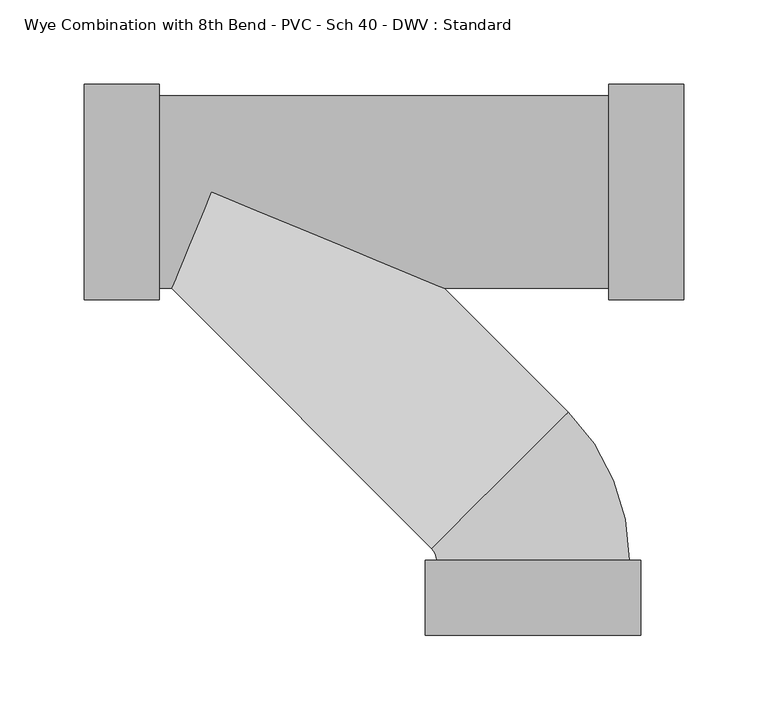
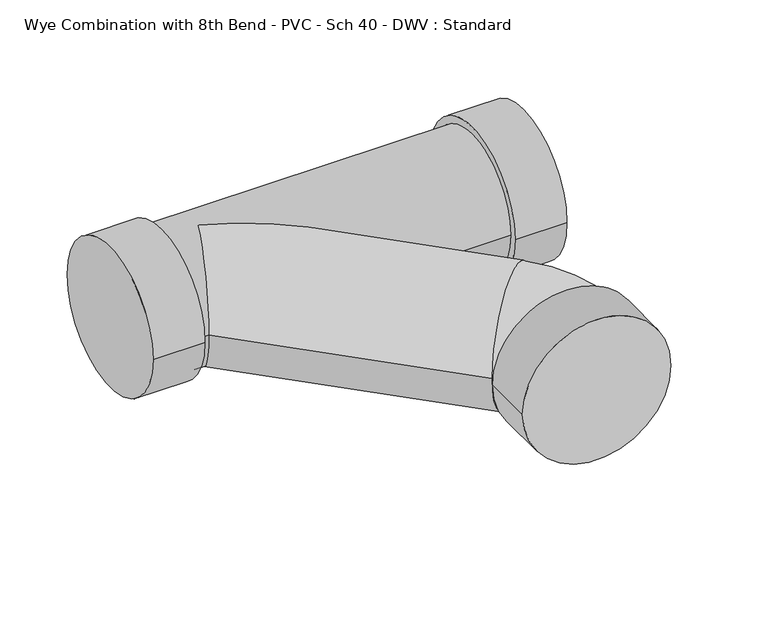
"""IFC4 building model written with IfcOpenShell, lengths in millimetres: pipe fitting geometry, Wye Combination with 8th Bend - PVC - Sch 40 - DWV : Standard."""

from ifc_helpers import new_model, si_unit, point, frame, origin, place, context, project, spatial, circle_curve, ellipse_curve, trimmed, source, transform, mapped, element, save
from ifc_brep_helpers import plane_surface, cylinder_surface, revolved_surface, advanced_brep


def wye_combination_with_8th_bend_pvc_sch_40_dwv_standard_4b4f6425(model_context):
    return source(origin(), model_context, "Body", "AdvancedBrep", [
        advanced_brep(
        [(-265.8880695, -63.754, 0.0), (-265.8880695, 63.754, 0.0), (-221.4380695, -63.754, 0.0), (-221.4380695, 63.754, 0.0), (-221.4380695, -57.15, 0.0), (-221.4380695, 57.15, 0.0), (44.8555305, 57.15, 0.0), (-214.219996, -57.15, 0.0), (-190.5476909, 0.0, 57.15), (-52.5753858, -57.15, 0.0), (44.8555305, -57.15, 0.0), (-190.5476909, 0.0, -57.15), (44.8555305, -63.754, 0.0), (44.8555305, 63.754, 0.0), (89.3055305, -63.754, 0.0), (89.3055305, 63.754, 0.0), (-59.9896719, -211.3803241, 0.0), (-57.1254692, -218.2940223, 0.0), (57.1745301, -218.2811777, 0.0), (20.8326332, -130.558019, 0.0), (-63.7294691, -218.2947645, 0.0), (63.7785301, -218.2804355, 0.0), (-63.724474, -262.7447642, 0.0), (63.7835252, -262.7304352, 0.0)],
        [
            (0, 1, circle_curve(frame((-265.8880695, 0.0, 0.0), z_axis=(-1.0, 0.0, 0.0), x_axis=(0.0, 1.0, 0.0)), 63.754)),
            (1, 0, circle_curve(frame((-265.8880695, 0.0, 0.0), z_axis=(-1.0, 0.0, 0.0), x_axis=(0.0, 1.0, 0.0)), 63.754)),
            (2, 3, circle_curve(frame((-221.4380695, 0.0, 0.0), z_axis=(1.0, 0.0, 0.0), x_axis=(0.0, 1.0, 0.0)), 63.754)),
            (3, 2, circle_curve(frame((-221.4380695, 0.0, 0.0), z_axis=(1.0, 0.0, 0.0), x_axis=(0.0, 1.0, 0.0)), 63.754)),
            (4, 5, circle_curve(frame((-221.4380695, 0.0, 0.0), z_axis=(-1.0, 0.0, 0.0), x_axis=(0.0, 1.0, 0.0)), 57.15)),
            (5, 4, circle_curve(frame((-221.4380695, 0.0, 0.0), z_axis=(-1.0, 0.0, 0.0), x_axis=(0.0, 1.0, 0.0)), 57.15)),
            (0, 2),
            (3, 1),
            (6, 5),
            (4, 7),
            (7, 8, ellipse_curve(frame((-190.5476909, 0.0, 0.0), z_axis=(-0.9238795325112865, 0.38268343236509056, 0.0), x_axis=(-0.3826834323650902, -0.9238795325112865, 0.0)), 61.8587142, 57.15)),
            (8, 9, ellipse_curve(frame((-190.5476909, 0.0, 0.0), z_axis=(0.38268343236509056, 0.9238795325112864, 0.0), x_axis=(-0.9238795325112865, 0.38268343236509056, 0.0)), 149.3401469, 57.15)),
            (9, 10),
            (10, 6, circle_curve(frame((44.8555305, 0.0, 0.0), z_axis=(-1.0, 0.0, 0.0), x_axis=(0.0, 1.0, 0.0)), 57.15)),
            (6, 10, circle_curve(frame((44.8555305, 0.0, 0.0), z_axis=(-1.0, 0.0, 0.0), x_axis=(0.0, 1.0, 0.0)), 57.15)),
            (9, 11, ellipse_curve(frame((-190.5476909, 0.0, 0.0), z_axis=(0.38268343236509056, 0.9238795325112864, 0.0), x_axis=(-0.9238795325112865, 0.38268343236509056, 0.0)), 149.3401469, 57.15)),
            (11, 7, ellipse_curve(frame((-190.5476909, 0.0, 0.0), z_axis=(-0.9238795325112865, 0.38268343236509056, 0.0), x_axis=(-0.3826834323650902, -0.9238795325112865, 0.0)), 61.8587142, 57.15)),
            (12, 13, circle_curve(frame((44.8555305, 0.0, 0.0), z_axis=(-1.0, 0.0, 0.0), x_axis=(0.0, 1.0, 0.0)), 63.754)),
            (13, 12, circle_curve(frame((44.8555305, 0.0, 0.0), z_axis=(-1.0, 0.0, 0.0), x_axis=(0.0, 1.0, 0.0)), 63.754)),
            (14, 15, circle_curve(frame((89.3055305, 0.0, 0.0), z_axis=(1.0, 0.0, 0.0), x_axis=(0.0, 1.0, 0.0)), 63.754)),
            (15, 14, circle_curve(frame((89.3055305, 0.0, 0.0), z_axis=(1.0, 0.0, 0.0), x_axis=(0.0, 1.0, 0.0)), 63.754)),
            (12, 14),
            (15, 13),
            (16, 17, circle_curve(frame((-66.9044691, -218.2951213, 0.0), z_axis=(0.0, 0.0, -1.0), x_axis=(0.9999999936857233, 0.00011237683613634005, 0.0)), 9.779)),
            (17, 18, circle_curve(frame((0.0245305, -218.2876, 0.0), z_axis=(-0.00011237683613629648, 0.9999999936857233, 0.0), x_axis=(-0.9999999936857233, -0.00011237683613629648, 0.0)), 57.15)),
            (18, 19, circle_curve(frame((-66.9044691, -218.2951213, 0.0), z_axis=(0.0, 0.0, 1.0), x_axis=(0.9999999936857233, 0.00011237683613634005, 0.0)), 124.079)),
            (19, 16, circle_curve(frame((-19.5785193, -170.9691715, 0.0), z_axis=(0.707106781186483, -0.7071067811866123, 0.0), x_axis=(-0.7071067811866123, -0.707106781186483, 0.0)), 57.15)),
            (16, 19, circle_curve(frame((-19.5785193, -170.9691715, 0.0), z_axis=(0.7071067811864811, -0.7071067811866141, 0.0), x_axis=(-0.7071067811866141, -0.7071067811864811, 0.0)), 57.15)),
            (18, 17, circle_curve(frame((0.0245305, -218.2876, 0.0), z_axis=(-0.00011237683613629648, 0.9999999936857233, 0.0), x_axis=(-0.9999999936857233, -0.00011237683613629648, 0.0)), 57.15)),
            (19, 9),
            (7, 16),
            (20, 21, circle_curve(frame((0.0245305, -218.2876, 0.0), z_axis=(-0.00011237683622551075, 0.9999999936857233, 0.0), x_axis=(0.9999999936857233, 0.00011237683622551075, 0.0)), 63.754)),
            (21, 20, circle_curve(frame((0.0245305, -218.2876, 0.0), z_axis=(-0.00011237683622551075, 0.9999999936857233, 0.0), x_axis=(0.9999999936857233, 0.00011237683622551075, 0.0)), 63.754)),
            (22, 23, circle_curve(frame((0.0295256, -262.7375997, 0.0), z_axis=(0.00011237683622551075, -0.9999999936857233, 0.0), x_axis=(0.9999999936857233, 0.00011237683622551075, 0.0)), 63.754)),
            (23, 22, circle_curve(frame((0.0295256, -262.7375997, 0.0), z_axis=(0.00011237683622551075, -0.9999999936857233, 0.0), x_axis=(0.9999999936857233, 0.00011237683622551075, 0.0)), 63.754)),
            (20, 22),
            (23, 21),
        ],
        [
            plane_surface(frame((-265.8880695, 0.0, 0.0), z_axis=(-1.0, 0.0, 0.0), x_axis=(0.0, 0.0, 1.0))),
            plane_surface(frame((-221.4380695, 0.0, 0.0), z_axis=(1.0, 0.0, 0.0), x_axis=(0.0, 0.0, 1.0))),
            cylinder_surface(frame((-265.8880695, 0.0, 0.0), z_axis=(-1.0, 0.0, 0.0), x_axis=(0.0, 1.0, 0.0)), 63.754),
            cylinder_surface(frame((-221.4380695, 0.0, 0.0), z_axis=(-1.0, 0.0, 0.0), x_axis=(0.0, 1.0, 0.0)), 57.15),
            plane_surface(frame((44.8555305, 0.0, 0.0), z_axis=(-1.0, 0.0, 0.0), x_axis=(0.0, 0.0, 1.0))),
            plane_surface(frame((89.3055305, 0.0, 0.0), z_axis=(1.0, 0.0, 0.0), x_axis=(0.0, 0.0, 1.0))),
            cylinder_surface(frame((44.8555305, 0.0, 0.0), z_axis=(-1.0, 0.0, 0.0), x_axis=(0.0, 1.0, 0.0)), 63.754),
            revolved_surface(trimmed(ellipse_curve(frame((0.0245305, -218.2876, 0.0), z_axis=(0.00011237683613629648, -0.9999999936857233, 0.0), x_axis=(-0.9999999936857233, -0.00011237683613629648, 0.0)), 57.15, 57.15), [point((57.1745301, -218.2811777, 0.0))], [point((-57.1254692, -218.2940223, 0.0))], True, "CARTESIAN"), (-66.9044691, -218.2951213, 0.0), (0.0, 0.0, 1.0)),
            revolved_surface(trimmed(ellipse_curve(frame((0.0245305, -218.2876, 0.0), z_axis=(0.00011237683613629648, -0.9999999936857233, 0.0), x_axis=(-0.9999999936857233, -0.00011237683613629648, 0.0)), 57.15, 57.15), [point((-57.1254692, -218.2940223, 0.0))], [point((57.1745301, -218.2811777, 0.0))], True, "CARTESIAN"), (-66.9044691, -218.2951213, 0.0), (0.0, 0.0, 1.0)),
            cylinder_surface(frame((-19.5785193, -170.9691715, 0.0), z_axis=(0.7071067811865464, -0.7071067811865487, 0.0), x_axis=(-0.7071067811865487, -0.7071067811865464, 0.0)), 57.15),
            plane_surface(frame((0.0245305, -218.2876, 0.0), z_axis=(-0.00011237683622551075, 0.9999999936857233, 0.0), x_axis=(0.0, 0.0, 1.0))),
            plane_surface(frame((0.0295256, -262.7375997, 0.0), z_axis=(0.00011237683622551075, -0.9999999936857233, 0.0), x_axis=(0.0, 0.0, 1.0))),
            cylinder_surface(frame((0.0245305, -218.2876, 0.0), z_axis=(-0.00011237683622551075, 0.9999999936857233, 0.0), x_axis=(0.9999999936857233, 0.00011237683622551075, 0.0)), 63.754),
        ],
        [
            (0, [[1, 2]]),
            (1, [[3, 4], [5, 6]]),
            (2, [[-1, 7, -4, 8]]),
            (2, [[-2, -8, -3, -7]]),
            (3, [[9, -5, 10, 11, 12, 13, 14]]),
            (3, [[-9, 15, -13, 16, 17, -10, -6]]),
            (4, [[18, 19], [-14, -15]]),
            (5, [[20, 21]]),
            (6, [[-18, 22, -21, 23]]),
            (6, [[-19, -23, -20, -22]]),
            (7, [[24, 25, 26, 27]]),
            (8, [[-24, 28, -26, 29]]),
            (9, [[-27, 30, -12, -11, 31]]),
            (9, [[-28, -31, -17, -16, -30]]),
            (10, [[32, 33], [-25, -29]]),
            (11, [[34, 35]]),
            (12, [[-32, 36, -35, 37]]),
            (12, [[-33, -37, -34, -36]]),
        ],
    ),
    ])


if __name__ == "__main__":
    model = new_model("IFC4")
    model_context = context("Model", 3, world=origin())
    ifc_project = project(units=[si_unit("LENGTHUNIT", "METRE", prefix="MILLI")], contexts=[model_context])
    site = spatial("IfcSite", under=ifc_project)
    building = spatial("IfcBuilding", under=site)
    placement = place(None, origin())
    wye_combination_with_8th_bend_pvc_sch_40_dwv_standard_shape = wye_combination_with_8th_bend_pvc_sch_40_dwv_standard_4b4f6425(model_context)
    element("IfcPipeFitting", 1, ObjectType="Wye Combination with 8th Bend - PVC - Sch 40 - DWV : Standard", at=placement, inside=building, context=model_context, shape_type="MappedRepresentation", body=[
        mapped(wye_combination_with_8th_bend_pvc_sch_40_dwv_standard_shape, transform((0.0, 0.0, 0.0), x_axis=(1.0, 0.0, 0.0), y_axis=(0.0, 1.0, 0.0), z_axis=(0.0, 0.0, 1.0))),
    ])
    save(model, "model.ifc")
